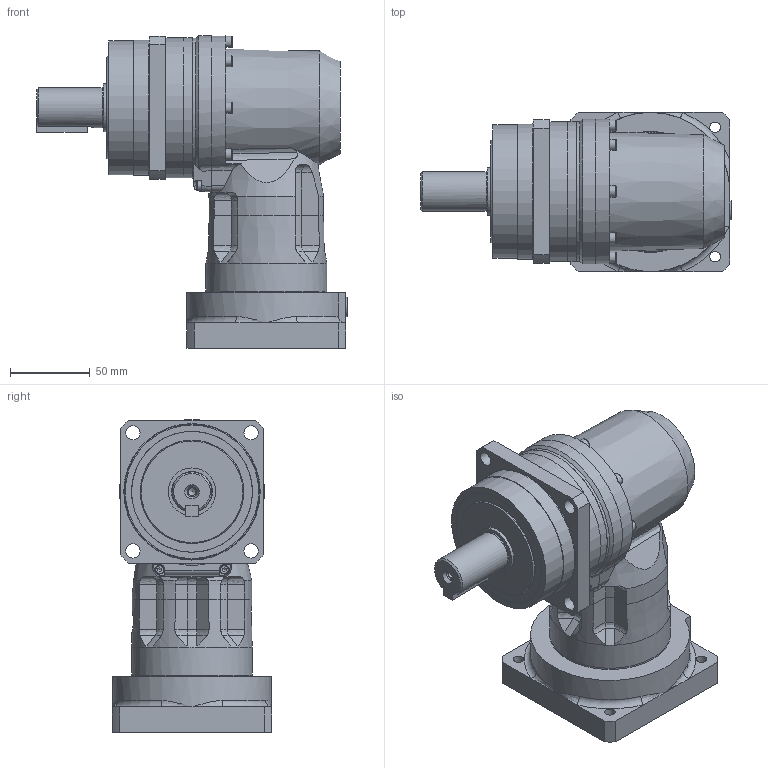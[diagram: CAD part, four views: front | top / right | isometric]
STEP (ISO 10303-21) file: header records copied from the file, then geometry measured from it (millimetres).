
FILE_DESCRIPTION(/* description */ ('ANFX-PK120W-3-7B'),/* implementation_level */ '2;1');
FILE_NAME(/* name */ 'C:\Users\ADMINI~1\AppData\Local\Temp\MM582486_ANFX-PK120W-3-7B.stp',/* time_stamp */ '2018-07-11T15:14:58+02:00',/* author */ ('Max'),/* organization */ (''),/* preprocessor_version */ 'ST-DEVELOPER v17',/* originating_system */ 'Autodesk Inventor 2018',/* authorisation */ '');
FILE_SCHEMA (('AUTOMOTIVE_DESIGN { 1 0 10303 214 3 1 1 }'));
Length unit declared in the file: millimetre
Products named in the file (29): MM581710; MMBG0004105; MMCM057LG; MMAF787LG; M204639; M204639-1; M204639-2; M204639-3; M204639-4; MMAP6499G; 009M005R014NG; M530A30508---G; 211458; 205792; 200409; MMBG0004078; MMCL445LG; MMCM226LG; MAX4840G; MAW8381G; M202625; MMBG0004116; MMAF790LG; 212098; 203366; MMAP1654G; MMCH633LG; MAW8386G; 200458
Assembly tree (69 placements, depth 4):
  MM581710
    MMBG0004105
      MMCM057LG
      MMAF787LG
      M204639
        M204639-1
        M204639-2
        M204639-3  x2
        M204639-4  x12
      MMAP6499G
      009M005R014NG
      M530A30508---G
      211458  x2
      205792  x8
      200409  x7
    MMBG0004078
      MMCL445LG
      MMCM226LG
      MAX4840G
      MAW8381G
      M202625
    MMBG0004116
      MMAF790LG
      212098  x8
      203366  x2
      MMAP1654G
    MMCH633LG
    MAW8386G
    200458  x8
Bounding box: 195.5 x 100 x 196.54 mm (x, y, z)
Volume: 821584.9 mm3; surface area: 285733.8 mm2
Topology: 107 solids, 107 shells, 1201 faces, 3318 edges, 2323 vertices
Faces by surface type: plane 566, cylinder 306, cone 138, torus 79, bspline 59, sphere 53
Full cylindrical faces by diameter (mm): 2 x1, 2.459 x12, 3 x10, 3.242 x15, 3.4 x10, 3.5 x8, 4 x15, 4.134 x9, 4.5 x15, 4.917 x1, 5 x9, 5.5 x19, 6.2 x1, 6.5 x8, 6.647 x4, 7 x15, 8.5 x9, 8.566 x2, 9 x4, 9.8 x1, 10 x1, 10.2 x1, 10.4 x1, 12 x1, 14 x1, 15 x2, 19.5 x1, 24 x1, 25 x1, 28.6 x1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
Entity records: 27870 total; most frequent: CARTESIAN_POINT 6317, DIRECTION 4585, ORIENTED_EDGE 4036, EDGE_CURVE 2018, AXIS2_PLACEMENT_3D 1943, VERTEX_POINT 1495, CIRCLE 1107, EDGE_LOOP 1017
